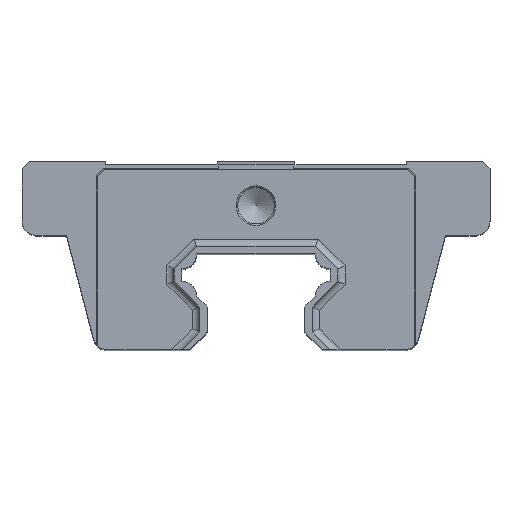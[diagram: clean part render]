
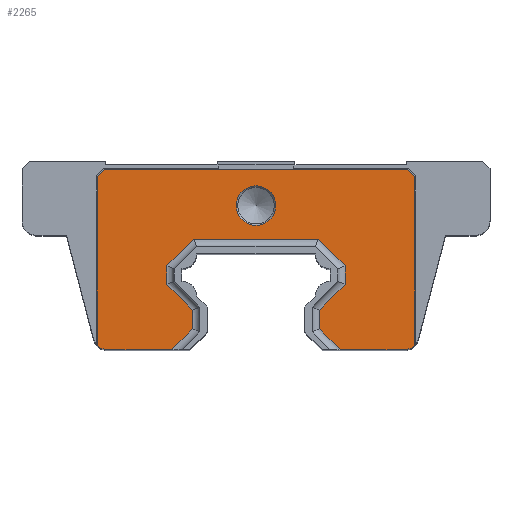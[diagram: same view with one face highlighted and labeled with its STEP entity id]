
A CAD part, top view. The second image highlights one B-rep face of the part: STEP entity #2265.
In plain terms, the highlighted planar face has unit normal (0, 0, 1).
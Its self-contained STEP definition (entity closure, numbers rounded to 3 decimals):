
#51=FACE_BOUND('',#361,.T.);
#61=PLANE('',#2411);
#243=FACE_OUTER_BOUND('',#360,.T.);
#360=EDGE_LOOP('',(#1625,#1626,#1627,#1628,#1629,#1630,#1631,#1632,#1633,
#1634,#1635,#1636,#1637,#1638,#1639,#1640,#1641,#1642,#1643,#1644));
#361=EDGE_LOOP('',(#1645));
#502=LINE('',#3305,#752);
#503=LINE('',#3307,#753);
#504=LINE('',#3309,#754);
#505=LINE('',#3311,#755);
#506=LINE('',#3315,#756);
#507=LINE('',#3317,#757);
#508=LINE('',#3319,#758);
#509=LINE('',#3321,#759);
#510=LINE('',#3323,#760);
#511=LINE('',#3325,#761);
#512=LINE('',#3327,#762);
#513=LINE('',#3329,#763);
#514=LINE('',#3331,#764);
#515=LINE('',#3333,#765);
#516=LINE('',#3335,#766);
#517=LINE('',#3337,#767);
#518=LINE('',#3339,#768);
#519=LINE('',#3342,#769);
#752=VECTOR('',#2648,10.);
#753=VECTOR('',#2649,10.);
#754=VECTOR('',#2650,10.);
#755=VECTOR('',#2651,10.);
#756=VECTOR('',#2654,10.);
#757=VECTOR('',#2655,10.);
#758=VECTOR('',#2656,10.);
#759=VECTOR('',#2657,10.);
#760=VECTOR('',#2658,10.);
#761=VECTOR('',#2659,10.);
#762=VECTOR('',#2660,10.);
#763=VECTOR('',#2661,10.);
#764=VECTOR('',#2662,10.);
#765=VECTOR('',#2663,10.);
#766=VECTOR('',#2664,10.);
#767=VECTOR('',#2665,10.);
#768=VECTOR('',#2666,10.);
#769=VECTOR('',#2669,10.);
#986=CIRCLE('',#2406,2.659);
#990=CIRCLE('',#2412,2.);
#991=CIRCLE('',#2413,2.);
#1052=VERTEX_POINT('',#3291);
#1056=VERTEX_POINT('',#3303);
#1057=VERTEX_POINT('',#3304);
#1058=VERTEX_POINT('',#3306);
#1059=VERTEX_POINT('',#3308);
#1060=VERTEX_POINT('',#3310);
#1061=VERTEX_POINT('',#3312);
#1062=VERTEX_POINT('',#3314);
#1063=VERTEX_POINT('',#3316);
#1064=VERTEX_POINT('',#3318);
#1065=VERTEX_POINT('',#3320);
#1066=VERTEX_POINT('',#3322);
#1067=VERTEX_POINT('',#3324);
#1068=VERTEX_POINT('',#3326);
#1069=VERTEX_POINT('',#3328);
#1070=VERTEX_POINT('',#3330);
#1071=VERTEX_POINT('',#3332);
#1072=VERTEX_POINT('',#3334);
#1073=VERTEX_POINT('',#3336);
#1074=VERTEX_POINT('',#3338);
#1075=VERTEX_POINT('',#3340);
#1276=EDGE_CURVE('',#1052,#1052,#986,.T.);
#1282=EDGE_CURVE('',#1056,#1057,#502,.T.);
#1283=EDGE_CURVE('',#1056,#1058,#503,.T.);
#1284=EDGE_CURVE('',#1059,#1058,#504,.T.);
#1285=EDGE_CURVE('',#1059,#1060,#505,.T.);
#1286=EDGE_CURVE('',#1061,#1060,#990,.T.);
#1287=EDGE_CURVE('',#1061,#1062,#506,.T.);
#1288=EDGE_CURVE('',#1063,#1062,#507,.T.);
#1289=EDGE_CURVE('',#1064,#1063,#508,.T.);
#1290=EDGE_CURVE('',#1065,#1064,#509,.T.);
#1291=EDGE_CURVE('',#1066,#1065,#510,.T.);
#1292=EDGE_CURVE('',#1067,#1066,#511,.T.);
#1293=EDGE_CURVE('',#1068,#1067,#512,.T.);
#1294=EDGE_CURVE('',#1069,#1068,#513,.T.);
#1295=EDGE_CURVE('',#1070,#1069,#514,.T.);
#1296=EDGE_CURVE('',#1071,#1070,#515,.T.);
#1297=EDGE_CURVE('',#1072,#1071,#516,.T.);
#1298=EDGE_CURVE('',#1073,#1072,#517,.T.);
#1299=EDGE_CURVE('',#1073,#1074,#518,.T.);
#1300=EDGE_CURVE('',#1075,#1074,#991,.T.);
#1301=EDGE_CURVE('',#1075,#1057,#519,.T.);
#1625=ORIENTED_EDGE('',*,*,#1282,.F.);
#1626=ORIENTED_EDGE('',*,*,#1283,.T.);
#1627=ORIENTED_EDGE('',*,*,#1284,.F.);
#1628=ORIENTED_EDGE('',*,*,#1285,.T.);
#1629=ORIENTED_EDGE('',*,*,#1286,.F.);
#1630=ORIENTED_EDGE('',*,*,#1287,.T.);
#1631=ORIENTED_EDGE('',*,*,#1288,.F.);
#1632=ORIENTED_EDGE('',*,*,#1289,.F.);
#1633=ORIENTED_EDGE('',*,*,#1290,.F.);
#1634=ORIENTED_EDGE('',*,*,#1291,.F.);
#1635=ORIENTED_EDGE('',*,*,#1292,.F.);
#1636=ORIENTED_EDGE('',*,*,#1293,.F.);
#1637=ORIENTED_EDGE('',*,*,#1294,.F.);
#1638=ORIENTED_EDGE('',*,*,#1295,.F.);
#1639=ORIENTED_EDGE('',*,*,#1296,.F.);
#1640=ORIENTED_EDGE('',*,*,#1297,.F.);
#1641=ORIENTED_EDGE('',*,*,#1298,.F.);
#1642=ORIENTED_EDGE('',*,*,#1299,.T.);
#1643=ORIENTED_EDGE('',*,*,#1300,.F.);
#1644=ORIENTED_EDGE('',*,*,#1301,.T.);
#1645=ORIENTED_EDGE('',*,*,#1276,.F.);
#2265=ADVANCED_FACE('',(#243,#51),#61,.T.);
#2406=AXIS2_PLACEMENT_3D('',#3292,#2634,#2635);
#2411=AXIS2_PLACEMENT_3D('',#3302,#2646,#2647);
#2412=AXIS2_PLACEMENT_3D('',#3313,#2652,#2653);
#2413=AXIS2_PLACEMENT_3D('',#3341,#2667,#2668);
#2634=DIRECTION('center_axis',(0.,0.,1.));
#2635=DIRECTION('ref_axis',(-1.,0.,0.));
#2646=DIRECTION('center_axis',(0.,0.,1.));
#2647=DIRECTION('ref_axis',(1.,0.,0.));
#2648=DIRECTION('',(0.707,-0.707,0.));
#2649=DIRECTION('',(-1.,0.,0.));
#2650=DIRECTION('',(0.707,0.707,0.));
#2651=DIRECTION('',(0.,-1.,0.));
#2652=DIRECTION('center_axis',(0.,0.,-1.));
#2653=DIRECTION('ref_axis',(-0.612,-0.791,0.));
#2654=DIRECTION('',(1.,0.,0.));
#2655=DIRECTION('',(-0.707,-0.707,0.));
#2656=DIRECTION('',(0.,-1.,0.));
#2657=DIRECTION('',(0.707,-0.707,0.));
#2658=DIRECTION('',(0.,-1.,0.));
#2659=DIRECTION('',(-0.707,-0.707,0.));
#2660=DIRECTION('',(-1.,0.,0.));
#2661=DIRECTION('',(-0.707,0.707,0.));
#2662=DIRECTION('',(0.,1.,0.));
#2663=DIRECTION('',(0.707,0.707,0.));
#2664=DIRECTION('',(0.,1.,0.));
#2665=DIRECTION('',(-0.707,0.707,0.));
#2666=DIRECTION('',(1.,0.,0.));
#2667=DIRECTION('center_axis',(0.,0.,-1.));
#2668=DIRECTION('ref_axis',(0.612,-0.791,0.));
#2669=DIRECTION('',(0.,1.,0.));
#3291=CARTESIAN_POINT('',(2.659,24.,38.25));
#3292=CARTESIAN_POINT('Origin',(0.,24.,38.25));
#3302=CARTESIAN_POINT('Origin',(0.,16.75,38.25));
#3303=CARTESIAN_POINT('',(20.4,28.9,38.25));
#3304=CARTESIAN_POINT('',(21.4,27.9,38.25));
#3305=CARTESIAN_POINT('',(18.588,30.713,38.25));
#3306=CARTESIAN_POINT('',(-20.4,28.9,38.25));
#3307=CARTESIAN_POINT('',(21.4,28.9,38.25));
#3308=CARTESIAN_POINT('',(-21.4,27.9,38.25));
#3309=CARTESIAN_POINT('',(-18.588,30.713,38.25));
#3310=CARTESIAN_POINT('',(-21.4,5.219,38.25));
#3311=CARTESIAN_POINT('',(-21.4,28.9,38.25));
#3312=CARTESIAN_POINT('',(-19.953,4.6,38.25));
#3313=CARTESIAN_POINT('Origin',(-19.953,6.6,38.25));
#3314=CARTESIAN_POINT('',(-11.364,4.6,38.25));
#3315=CARTESIAN_POINT('',(-21.5,4.6,38.25));
#3316=CARTESIAN_POINT('',(-8.55,7.414,38.25));
#3317=CARTESIAN_POINT('',(-5.132,10.832,38.25));
#3318=CARTESIAN_POINT('',(-8.55,9.936,38.25));
#3319=CARTESIAN_POINT('',(-8.55,11.875,38.25));
#3320=CARTESIAN_POINT('',(-12.,13.386,38.25));
#3321=CARTESIAN_POINT('',(-7.97,9.355,38.25));
#3322=CARTESIAN_POINT('',(-12.,15.914,38.25));
#3323=CARTESIAN_POINT('',(-12.,15.275,38.25));
#3324=CARTESIAN_POINT('',(-8.414,19.5,38.25));
#3325=CARTESIAN_POINT('',(-8.645,19.27,38.25));
#3326=CARTESIAN_POINT('',(8.414,19.5,38.25));
#3327=CARTESIAN_POINT('',(-4.,19.5,38.25));
#3328=CARTESIAN_POINT('',(12.,15.914,38.25));
#3329=CARTESIAN_POINT('',(7.145,20.77,38.25));
#3330=CARTESIAN_POINT('',(12.,13.386,38.25));
#3331=CARTESIAN_POINT('',(12.,16.125,38.25));
#3332=CARTESIAN_POINT('',(8.55,9.936,38.25));
#3333=CARTESIAN_POINT('',(9.695,11.08,38.25));
#3334=CARTESIAN_POINT('',(8.55,7.414,38.25));
#3335=CARTESIAN_POINT('',(8.55,13.55,38.25));
#3336=CARTESIAN_POINT('',(11.364,4.6,38.25));
#3337=CARTESIAN_POINT('',(3.932,12.032,38.25));
#3338=CARTESIAN_POINT('',(19.953,4.6,38.25));
#3339=CARTESIAN_POINT('',(8.95,4.6,38.25));
#3340=CARTESIAN_POINT('',(21.4,5.219,38.25));
#3341=CARTESIAN_POINT('Origin',(19.953,6.6,38.25));
#3342=CARTESIAN_POINT('',(21.4,4.6,38.25));
